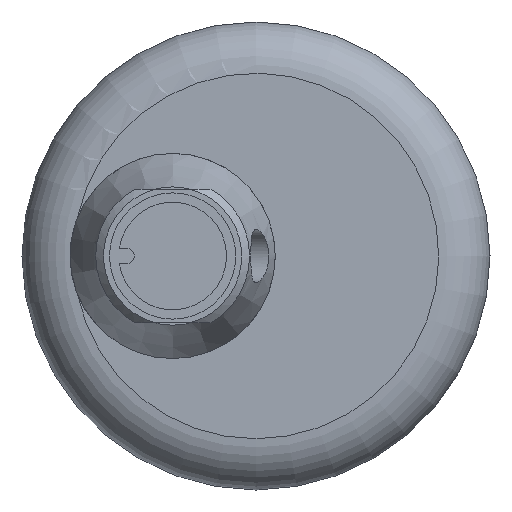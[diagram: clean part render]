
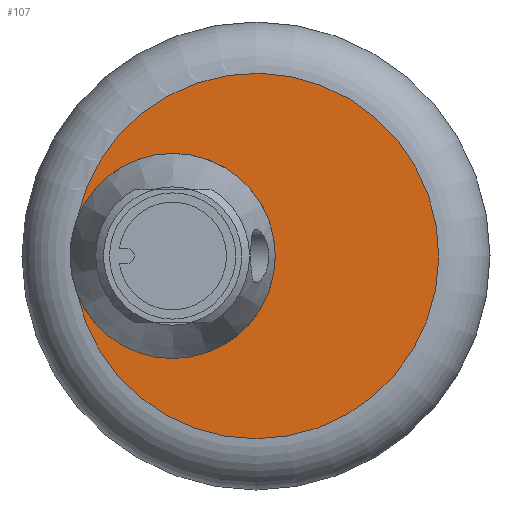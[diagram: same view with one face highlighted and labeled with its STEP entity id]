
A CAD part, left-side view. The second image highlights one B-rep face of the part: STEP entity #107.
In plain terms, the highlighted planar face has unit normal (-1, 0, 0).
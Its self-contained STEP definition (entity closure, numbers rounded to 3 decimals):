
#107 = ADVANCED_FACE( '', ( #212 ), #213, .F. );
#212 = FACE_OUTER_BOUND( '', #337, .T. );
#213 = PLANE( '', #338 );
#337 = EDGE_LOOP( '', ( #583, #584 ) );
#338 = AXIS2_PLACEMENT_3D( '', #585, #586, #587 );
#583 = ORIENTED_EDGE( '', *, *, #739, .F. );
#584 = ORIENTED_EDGE( '', *, *, #737, .F. );
#585 = CARTESIAN_POINT( '', ( 0., 0., 0. ) );
#586 = DIRECTION( '', ( 1., 0., 0. ) );
#587 = DIRECTION( '', ( 0., 0., -1. ) );
#737 = EDGE_CURVE( '', #866, #867, #868, .T. );
#739 = EDGE_CURVE( '', #867, #866, #870, .F. );
#866 = VERTEX_POINT( '', #1115 );
#867 = VERTEX_POINT( '', #1116 );
#868 = CIRCLE( '', #1117, 14.25 );
#870 = CIRCLE( '', #1130, 8. );
#1115 = CARTESIAN_POINT( '', ( 0., 13.947, 2.922 ) );
#1116 = CARTESIAN_POINT( '', ( 0., 13.947, -2.922 ) );
#1117 = AXIS2_PLACEMENT_3D( '', #1343, #1344, #1345 );
#1130 = AXIS2_PLACEMENT_3D( '', #1346, #1347, #1348 );
#1343 = CARTESIAN_POINT( '', ( 0., 0., 0. ) );
#1344 = DIRECTION( '', ( 1., 0., 0. ) );
#1345 = DIRECTION( '', ( 0., 0., -1. ) );
#1346 = CARTESIAN_POINT( '', ( 0., 6.5, 0. ) );
#1347 = DIRECTION( '', ( 1., 0., 0. ) );
#1348 = DIRECTION( '', ( 0., 0., -1. ) );
